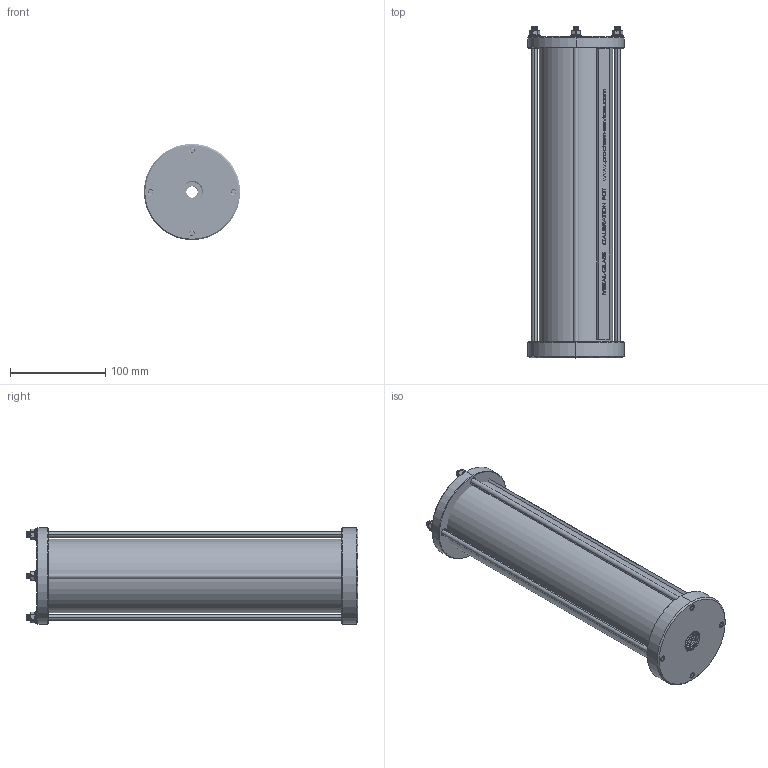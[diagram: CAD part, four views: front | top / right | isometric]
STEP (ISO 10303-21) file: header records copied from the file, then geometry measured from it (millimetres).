
FILE_DESCRIPTION (( 'STEP AP214' ), '1' );
FILE_NAME ('1.0LTR-C-11-34.STEP', '2025-08-19T14:14:58', ( '' ), ( '' ), 'SwSTEP 2.0', 'SolidWorks 2024', '' );
FILE_SCHEMA (( 'AUTOMOTIVE_DESIGN' ));
Length unit declared in the file: millimetre
Products named in the file (1): 1.0LTR-C-11-34
Bounding box: 101 x 348 x 101 mm (x, y, z)
Volume: 506229.9 mm3; surface area: 239410.3 mm2
Topology: 16 solids, 16 shells, 1494 faces, 3896 edges, 2512 vertices
Faces by surface type: cylinder 514, plane 455, bspline 349, cone 88, sphere 72, torus 16
Entity records: 109009 total; most frequent: CARTESIAN_POINT 60559, ORIENTED_EDGE 7792, DIRECTION 5052, EDGE_CURVE 3896, VERTEX_POINT 2512, LINE 1806, VECTOR 1806, AXIS2_PLACEMENT_3D 1623
